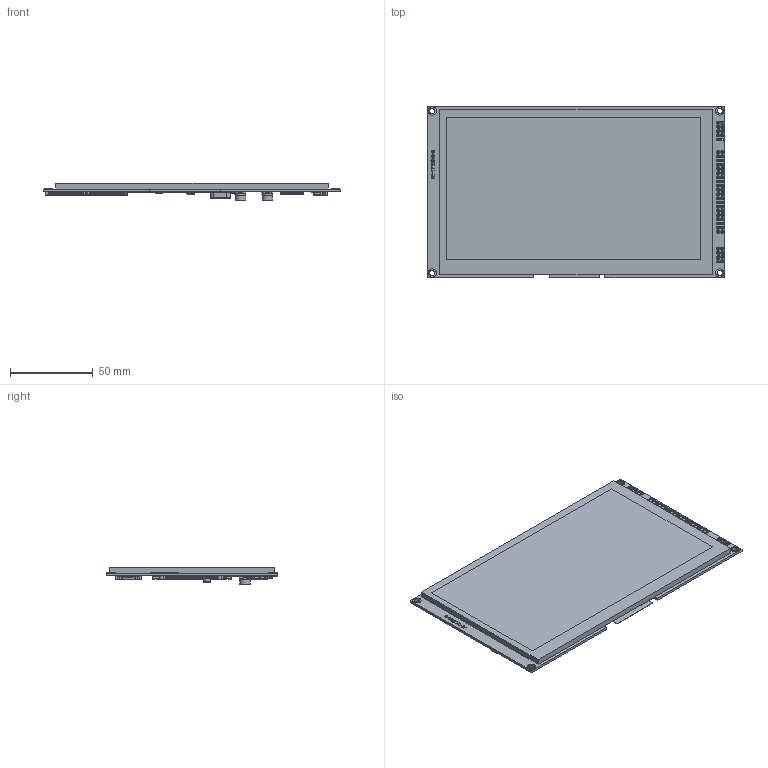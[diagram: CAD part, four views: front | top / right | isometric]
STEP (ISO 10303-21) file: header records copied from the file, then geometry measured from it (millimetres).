
FILE_DESCRIPTION(('HOOPS Exchange Step'),'2;1');
FILE_NAME('\\Server-1\e\公共文件夹\7.产品资料库\彩色-TFT\7寸\ER-TFTM070-5\3D\ER-TFTM070-5_3D.step','2021-01-28T10:25:53+08:00',('Administrator'),('Unknown organisation'),'HOOPS Exchange 2018.2','glovius.exe','Unknown authorisation');
FILE_SCHEMA( ('AUTOMOTIVE_DESIGN { 1 0 10303 214 1 1 1 1 }') );
Length unit declared in the file: millimetre
Products named in the file (12): ER-TFTM070-5-1; 固态电容-1; SD卡座-1; 晶振-1; 主控IC_new-1; 连接器_6-Pin-1; FLASH_IC-1; 连接器_50-Pin - 副本-1; 连接器_50-Pin-1; XPT2046-1; Default; ER-TFTM070-5
Assembly tree (15 placements, depth 3):
  ER-TFTM070-5
    Default
      ER-TFTM070-5-1
      固态电容-1  x2
      SD卡座-1
      晶振-1
      主控IC_new-1
      连接器_6-Pin-1  x2
      FLASH_IC-1  x2
      连接器_50-Pin - 副本-1
      连接器_50-Pin-1  x2
      XPT2046-1
Bounding box: 180 x 104 x 10.61 mm (x, y, z)
Volume: 89681 mm3; surface area: 62916.8 mm2
Topology: 276 solids, 278 shells, 11145 faces, 28580 edges, 18326 vertices
Faces by surface type: bspline 11145
Entity records: 930198 total; most frequent: CARTESIAN_POINT 612460, B_SPLINE_CURVE_WITH_KNOTS 66150, DEFINITIONAL_REPRESENTATION 48870, PCURVE 48870, ORIENTED_EDGE 48870, INTERSECTION_CURVE 24435, EDGE_CURVE 24435, VERTEX_POINT 15764
